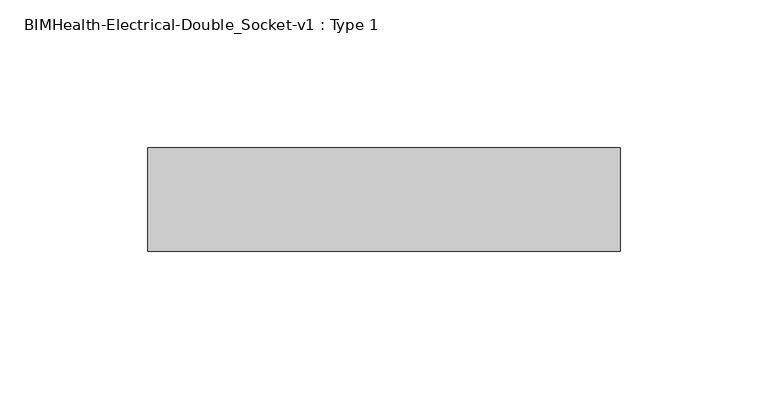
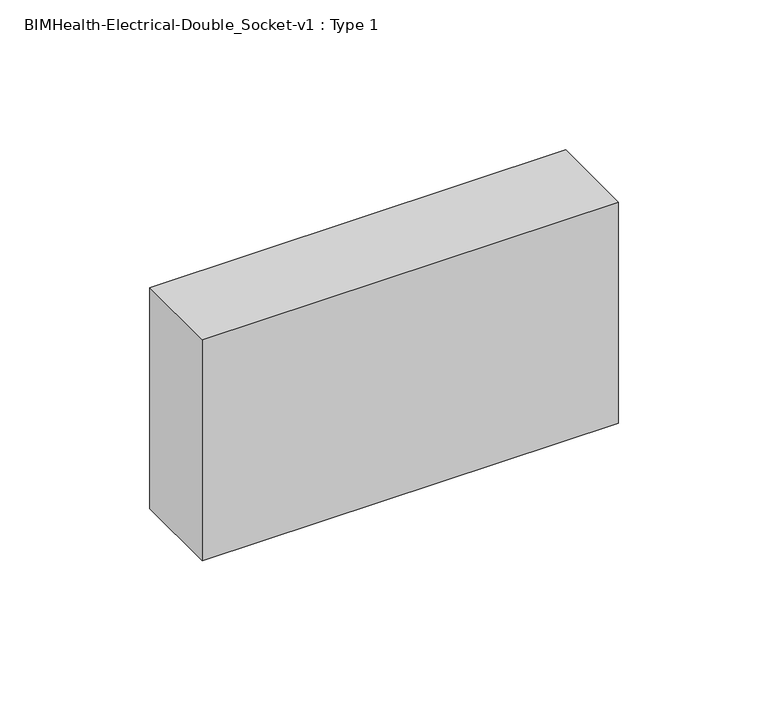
"""IFC4 building model written with IfcOpenShell, lengths in millimetres: proxy geometry, BIMHealth-Electrical-Double_Socket-v1 : Type 1."""

from ifc_helpers import new_model, si_unit, frame, origin, place, context, project, spatial, polyline, outline, extrude, source, transform, mapped, element, save


def bimhealth_electrical_double_socket_v1_type_1_a33e6646(model_context):
    return source(origin(), model_context, "Body", "SweptSolid", [
        extrude(outline(polyline([(285.0, 25.0), (125.0, 25.0), (125.0, 60.0), (285.0, 60.0), (285.0, 25.0)])), frame((0.0, 0.0, 450.0), z_axis=(0.0, 0.0, 1.0), x_axis=(1.0, 0.0, 0.0)), (0.0, 0.0, 1.0), 90.0),
    ])


if __name__ == "__main__":
    model = new_model("IFC4")
    model_context = context("Model", 3, world=origin())
    ifc_project = project(units=[si_unit("LENGTHUNIT", "METRE", prefix="MILLI")], contexts=[model_context])
    site = spatial("IfcSite", under=ifc_project)
    building = spatial("IfcBuilding", under=site)
    placement = place(None, origin())
    bimhealth_electrical_double_socket_v1_type_1_shape = bimhealth_electrical_double_socket_v1_type_1_a33e6646(model_context)
    element("IfcBuildingElementProxy", 1, Name="BIMHealth-Electrical-Double_Socket-v1 : Type 1", ObjectType="BIMHealth-Electrical-Double_Socket-v1 : Type 1", at=placement, inside=building, context=model_context, shape_type="MappedRepresentation", body=[
        mapped(bimhealth_electrical_double_socket_v1_type_1_shape, transform((0.0, 0.0, 0.0), x_axis=(1.0, 0.0, 0.0), y_axis=(0.0, 1.0, 0.0), z_axis=(0.0, 0.0, 1.0))),
    ])
    save(model, "model.ifc")
